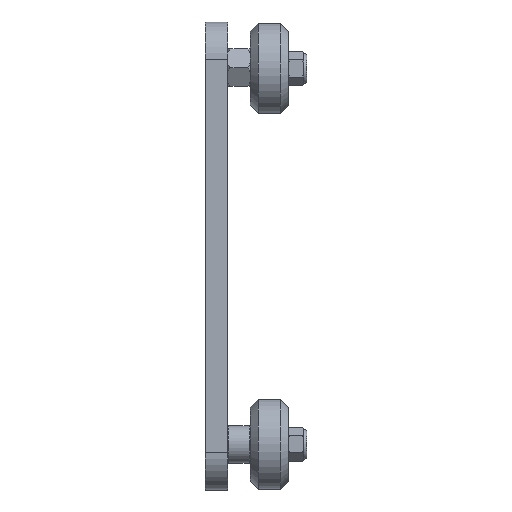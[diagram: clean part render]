
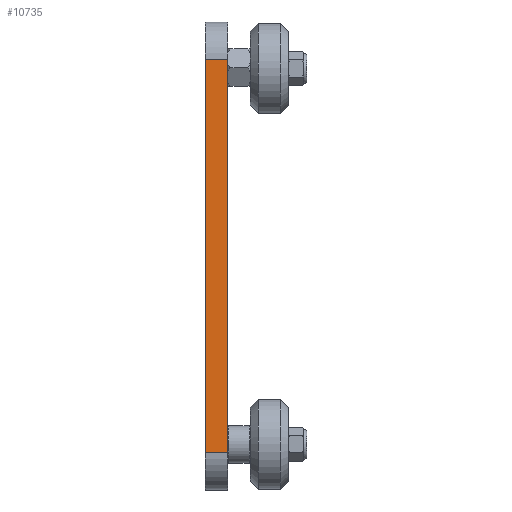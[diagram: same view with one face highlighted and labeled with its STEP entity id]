
A CAD part, left-side view. The second image highlights one B-rep face of the part: STEP entity #10735.
In plain terms, the highlighted planar face has unit normal (-1, 0, 0).
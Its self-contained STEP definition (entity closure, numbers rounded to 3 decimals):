
#8161 = PLANE('',#8162);
#8162 = AXIS2_PLACEMENT_3D('',#8163,#8164,#8165);
#8163 = CARTESIAN_POINT('',(0.,0.,0.));
#8164 = DIRECTION('',(0.,0.,1.));
#8165 = DIRECTION('',(1.,0.,-0.));
#10735 = ADVANCED_FACE('',(#10736),#10750,.F.);
#10736 = FACE_BOUND('',#10737,.T.);
#10737 = EDGE_LOOP('',(#10738,#10773,#10801,#10824));
#10738 = ORIENTED_EDGE('',*,*,#10739,.F.);
#10739 = EDGE_CURVE('',#10740,#10742,#10744,.T.);
#10740 = VERTEX_POINT('',#10741);
#10741 = CARTESIAN_POINT('',(-62.5,52.5,6.));
#10742 = VERTEX_POINT('',#10743);
#10743 = CARTESIAN_POINT('',(-62.5,-52.5,6.));
#10744 = SURFACE_CURVE('',#10745,(#10749,#10761),.PCURVE_S1.);
#10745 = LINE('',#10746,#10747);
#10746 = CARTESIAN_POINT('',(-62.5,52.5,6.));
#10747 = VECTOR('',#10748,1.);
#10748 = DIRECTION('',(0.,-1.,0.));
#10749 = PCURVE('',#10750,#10755);
#10750 = PLANE('',#10751);
#10751 = AXIS2_PLACEMENT_3D('',#10752,#10753,#10754);
#10752 = CARTESIAN_POINT('',(-62.5,-62.5,6.));
#10753 = DIRECTION('',(1.,0.,0.));
#10754 = DIRECTION('',(0.,0.,-1.));
#10755 = DEFINITIONAL_REPRESENTATION('',(#10756),#10760);
#10756 = LINE('',#10757,#10758);
#10757 = CARTESIAN_POINT('',(0.,115.));
#10758 = VECTOR('',#10759,1.);
#10759 = DIRECTION('',(0.,-1.));
#10760 = ( GEOMETRIC_REPRESENTATION_CONTEXT(2) 
PARAMETRIC_REPRESENTATION_CONTEXT() REPRESENTATION_CONTEXT('2D SPACE',''
  ) );
#10761 = PCURVE('',#10762,#10767);
#10762 = PLANE('',#10763);
#10763 = AXIS2_PLACEMENT_3D('',#10764,#10765,#10766);
#10764 = CARTESIAN_POINT('',(0.,0.,6.));
#10765 = DIRECTION('',(0.,0.,1.));
#10766 = DIRECTION('',(1.,0.,-0.));
#10767 = DEFINITIONAL_REPRESENTATION('',(#10768),#10772);
#10768 = LINE('',#10769,#10770);
#10769 = CARTESIAN_POINT('',(-62.5,52.5));
#10770 = VECTOR('',#10771,1.);
#10771 = DIRECTION('',(0.,-1.));
#10772 = ( GEOMETRIC_REPRESENTATION_CONTEXT(2) 
PARAMETRIC_REPRESENTATION_CONTEXT() REPRESENTATION_CONTEXT('2D SPACE',''
  ) );
#10773 = ORIENTED_EDGE('',*,*,#10774,.T.);
#10774 = EDGE_CURVE('',#10740,#10775,#10777,.T.);
#10775 = VERTEX_POINT('',#10776);
#10776 = CARTESIAN_POINT('',(-62.5,52.5,0.));
#10777 = SURFACE_CURVE('',#10778,(#10782,#10789),.PCURVE_S1.);
#10778 = LINE('',#10779,#10780);
#10779 = CARTESIAN_POINT('',(-62.5,52.5,6.));
#10780 = VECTOR('',#10781,1.);
#10781 = DIRECTION('',(0.,0.,-1.));
#10782 = PCURVE('',#10750,#10783);
#10783 = DEFINITIONAL_REPRESENTATION('',(#10784),#10788);
#10784 = LINE('',#10785,#10786);
#10785 = CARTESIAN_POINT('',(0.,115.));
#10786 = VECTOR('',#10787,1.);
#10787 = DIRECTION('',(1.,0.));
#10788 = ( GEOMETRIC_REPRESENTATION_CONTEXT(2) 
PARAMETRIC_REPRESENTATION_CONTEXT() REPRESENTATION_CONTEXT('2D SPACE',''
  ) );
#10789 = PCURVE('',#10790,#10795);
#10790 = CYLINDRICAL_SURFACE('',#10791,10.);
#10791 = AXIS2_PLACEMENT_3D('',#10792,#10793,#10794);
#10792 = CARTESIAN_POINT('',(-52.5,52.5,6.));
#10793 = DIRECTION('',(0.,0.,-1.));
#10794 = DIRECTION('',(-1.,0.,0.));
#10795 = DEFINITIONAL_REPRESENTATION('',(#10796),#10800);
#10796 = LINE('',#10797,#10798);
#10797 = CARTESIAN_POINT('',(0.,0.));
#10798 = VECTOR('',#10799,1.);
#10799 = DIRECTION('',(0.,1.));
#10800 = ( GEOMETRIC_REPRESENTATION_CONTEXT(2) 
PARAMETRIC_REPRESENTATION_CONTEXT() REPRESENTATION_CONTEXT('2D SPACE',''
  ) );
#10801 = ORIENTED_EDGE('',*,*,#10802,.T.);
#10802 = EDGE_CURVE('',#10775,#10803,#10805,.T.);
#10803 = VERTEX_POINT('',#10804);
#10804 = CARTESIAN_POINT('',(-62.5,-52.5,0.));
#10805 = SURFACE_CURVE('',#10806,(#10810,#10817),.PCURVE_S1.);
#10806 = LINE('',#10807,#10808);
#10807 = CARTESIAN_POINT('',(-62.5,52.5,0.));
#10808 = VECTOR('',#10809,1.);
#10809 = DIRECTION('',(0.,-1.,0.));
#10810 = PCURVE('',#10750,#10811);
#10811 = DEFINITIONAL_REPRESENTATION('',(#10812),#10816);
#10812 = LINE('',#10813,#10814);
#10813 = CARTESIAN_POINT('',(6.,115.));
#10814 = VECTOR('',#10815,1.);
#10815 = DIRECTION('',(0.,-1.));
#10816 = ( GEOMETRIC_REPRESENTATION_CONTEXT(2) 
PARAMETRIC_REPRESENTATION_CONTEXT() REPRESENTATION_CONTEXT('2D SPACE',''
  ) );
#10817 = PCURVE('',#8161,#10818);
#10818 = DEFINITIONAL_REPRESENTATION('',(#10819),#10823);
#10819 = LINE('',#10820,#10821);
#10820 = CARTESIAN_POINT('',(-62.5,52.5));
#10821 = VECTOR('',#10822,1.);
#10822 = DIRECTION('',(0.,-1.));
#10823 = ( GEOMETRIC_REPRESENTATION_CONTEXT(2) 
PARAMETRIC_REPRESENTATION_CONTEXT() REPRESENTATION_CONTEXT('2D SPACE',''
  ) );
#10824 = ORIENTED_EDGE('',*,*,#10825,.F.);
#10825 = EDGE_CURVE('',#10742,#10803,#10826,.T.);
#10826 = SURFACE_CURVE('',#10827,(#10831,#10838),.PCURVE_S1.);
#10827 = LINE('',#10828,#10829);
#10828 = CARTESIAN_POINT('',(-62.5,-52.5,6.));
#10829 = VECTOR('',#10830,1.);
#10830 = DIRECTION('',(0.,0.,-1.));
#10831 = PCURVE('',#10750,#10832);
#10832 = DEFINITIONAL_REPRESENTATION('',(#10833),#10837);
#10833 = LINE('',#10834,#10835);
#10834 = CARTESIAN_POINT('',(0.,10.));
#10835 = VECTOR('',#10836,1.);
#10836 = DIRECTION('',(1.,0.));
#10837 = ( GEOMETRIC_REPRESENTATION_CONTEXT(2) 
PARAMETRIC_REPRESENTATION_CONTEXT() REPRESENTATION_CONTEXT('2D SPACE',''
  ) );
#10838 = PCURVE('',#10839,#10844);
#10839 = CYLINDRICAL_SURFACE('',#10840,10.);
#10840 = AXIS2_PLACEMENT_3D('',#10841,#10842,#10843);
#10841 = CARTESIAN_POINT('',(-52.5,-52.5,6.));
#10842 = DIRECTION('',(0.,0.,-1.));
#10843 = DIRECTION('',(-1.,0.,0.));
#10844 = DEFINITIONAL_REPRESENTATION('',(#10845),#10849);
#10845 = LINE('',#10846,#10847);
#10846 = CARTESIAN_POINT('',(6.283,0.));
#10847 = VECTOR('',#10848,1.);
#10848 = DIRECTION('',(0.,1.));
#10849 = ( GEOMETRIC_REPRESENTATION_CONTEXT(2) 
PARAMETRIC_REPRESENTATION_CONTEXT() REPRESENTATION_CONTEXT('2D SPACE',''
  ) );
